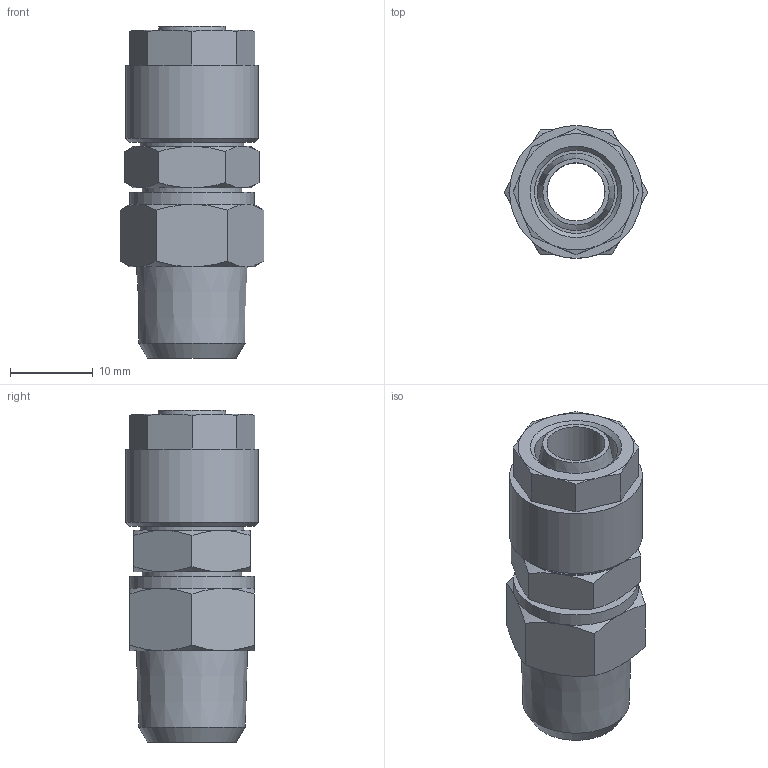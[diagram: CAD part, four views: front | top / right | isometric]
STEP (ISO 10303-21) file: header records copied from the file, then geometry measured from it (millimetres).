
FILE_DESCRIPTION(/* description */ (''),/* implementation_level */ '2;1');
FILE_NAME(/* name */ '10105_301DK_10-8_R14_20.07.16',/* time_stamp */ '2016-07-20T09:48:41+02:00',/* author */ (''),/* organization */ (''),/* preprocessor_version */ 'ST-DEVELOPER v16.5',/* originating_system */ 'HiCAD 2016 2101.0 Build 254',/* authorisation */ '');
FILE_SCHEMA (('AUTOMOTIVE_DESIGN { 1 0 10303 214 1 1 1 1 }'));
Length unit declared in the file: millimetre
Products named in the file (4): Root; 10105_Gewinde; 10105_Anschluss; 17007
Assembly tree (3 placements, depth 2):
  Root
    10105_Gewinde
    10105_Anschluss
    17007
Bounding box: 17.32 x 16 x 40 mm (x, y, z)
Volume: 4806.5 mm3; surface area: 4963.1 mm2
Topology: 3 solids, 3 shells, 87 faces, 186 edges, 114 vertices
Faces by surface type: cone 42, plane 33, cylinder 11, torus 1
Full cylindrical faces by diameter (mm): 7 x1, 8 x1, 8.5 x1, 10 x1, 12 x1, 12.2 x1, 12.5 x1, 12.773 x1, 14 x1, 15 x1, 16 x1
Entity records: 3856 total; most frequent: DIRECTION 470, CARTESIAN_POINT 355, PRESENTATION_STYLE_ASSIGNMENT 315, COLOUR_RGB 313, DRAUGHTING_PRE_DEFINED_CURVE_FONT 312, CURVE_STYLE 312, OVER_RIDING_STYLED_ITEM 312, ORIENTED_EDGE 312
